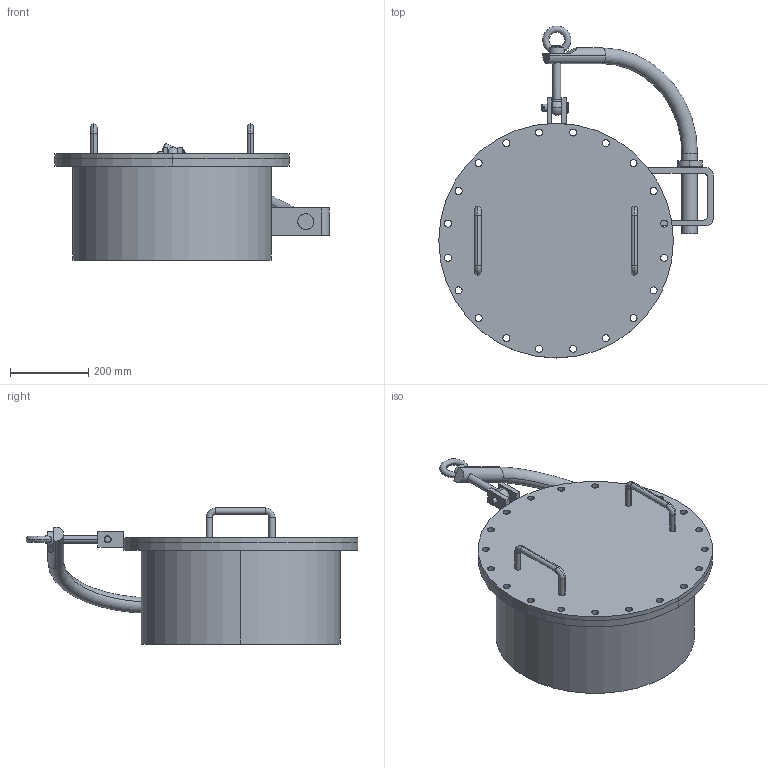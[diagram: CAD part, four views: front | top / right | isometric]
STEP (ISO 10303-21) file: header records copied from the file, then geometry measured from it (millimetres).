
FILE_DESCRIPTION (( 'STEP AP203' ), '1' );
FILE_NAME ('DIN 28124 - MA 500x250.STEP', '2016-06-27T07:32:35', ( '' ), ( '' ), 'SwSTEP 2.0', 'SolidWorks 2013', '' );
FILE_SCHEMA (( 'CONFIG_CONTROL_DESIGN' ));
Length unit declared in the file: millimetre
Products named in the file (12): DIN 28124-4 Pos. 5 - Augenschraube; Stutzenrohr; DIN 28031  Form A_DN 500; DIN 28124-1 [Mannlochverschlüsse für drucklose Behälter und Apparate] Form DA_500; DIN 28124-4 Pos. 1 - Schwenkarm_DN 500; DIN 1444; DIN 28124-4 Pos. 2 - Bund_DN 500; DIN 28124-4 Pos. 4 - Aufh鄚ge飉en; DIN 28124-4 Pos. 3V - Tragbügel vertikal_DN 500; DIN 28124-4; DIN 28124 - MA 500x250; DIN 28124-4 Pos. 6 - Mutter DIN 582 M20
Assembly tree (12 placements, depth 3):
  DIN 28124 - MA 500x250
    Stutzenrohr
    DIN 28031  Form A_DN 500
    DIN 28124-1 [Mannlochverschlüsse für drucklose Behälter und Apparate] Form DA_500
    DIN 28124-4
      DIN 28124-4 Pos. 1 - Schwenkarm_DN 500
      DIN 28124-4 Pos. 2 - Bund_DN 500
      DIN 28124-4 Pos. 3V - Tragbügel vertikal_DN 500
      DIN 28124-4 Pos. 6 - Mutter DIN 582 M20
      DIN 28124-4 Pos. 5 - Augenschraube
      DIN 1444
      DIN 28124-4 Pos. 4 - Aufh鄚ge飉en  x2
Bounding box: 701.78 x 849 x 348 mm (x, y, z)
Volume: 8851851.1 mm3; surface area: 1897492.1 mm2
Topology: 11 solids, 11 shells, 211 faces, 535 edges, 344 vertices
Faces by surface type: cylinder 138, plane 42, torus 16, cone 10, sphere 3, bspline 2
Entity records: 8203 total; most frequent: CARTESIAN_POINT 1544, DIRECTION 1240, ORIENTED_EDGE 1028, AXIS2_PLACEMENT_3D 528, EDGE_CURVE 514, VERTEX_POINT 330, CIRCLE 311, EDGE_LOOP 308
